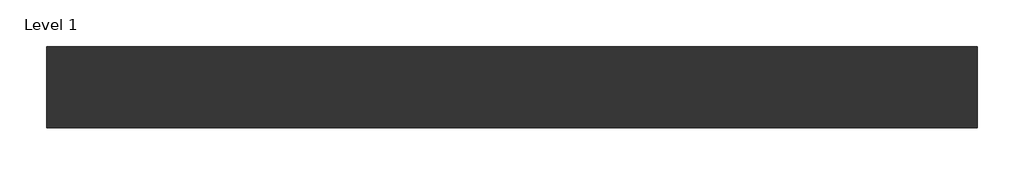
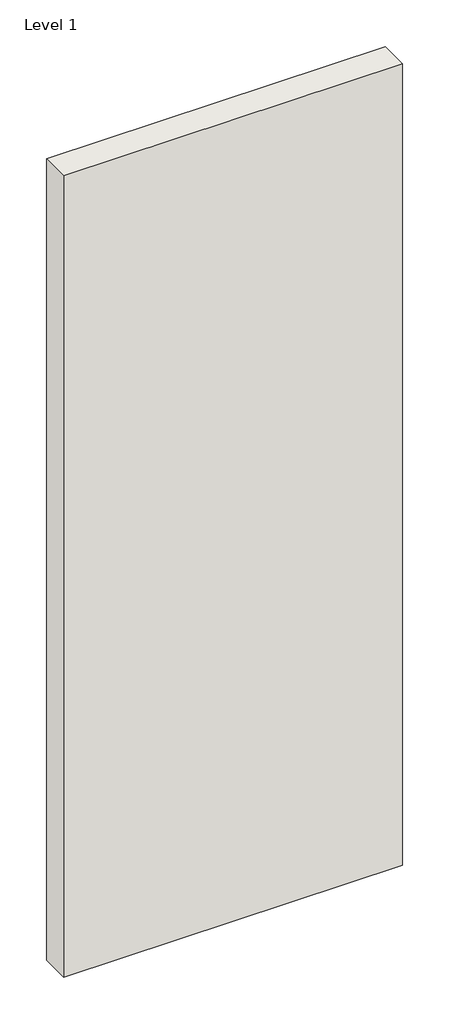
# One storey: 1 wall.
"""IFC4 building model written with IfcOpenShell, lengths in millimetres."""

import ifcopenshell
import ifcopenshell.guid

model = None  # the IFC model being written
_history = None  # IfcOwnerHistory: only IFC2X3 demands one
_inside = {}  # id of a spatial element -> (the spatial element, [elements in it])
_under = {}  # id of a project, library or spatial element -> (it, [spatial elements below it])
_declared = {}  # id of a project -> (the project, [libraries it declares])
_typed = {}  # id of a type object -> (the type object, [elements of that type])
_made_of = {}  # id of a material, layer set ... -> (it, [elements and type objects made of it])


def new_model(schema):
    """Start an empty IFC model of exactly this schema.

    Asked for "IFC4X3", IfcOpenShell would pick the latest addendum, in which some entities
    have other attributes; the version numbers below select the first issue.
    IFC2X3 requires an IfcOwnerHistory on every rooted entity: one is made here for all.
    """
    global model, _history
    if schema == "IFC4X3":
        model = ifcopenshell.file(schema_version=(4, 3, 0, 0))
    else:
        model = ifcopenshell.file(schema=schema)
    _inside.clear()
    _under.clear()
    _declared.clear()
    _typed.clear()
    _made_of.clear()
    _history = None
    if model.schema == "IFC2X3":
        org = make("IfcOrganization", Name="unknown")
        user = make(
            "IfcPersonAndOrganization",
            ThePerson=make("IfcPerson", FamilyName="unknown"),
            TheOrganization=org,
        )
        app = make(
            "IfcApplication",
            ApplicationDeveloper=org,
            Version="unknown",
            ApplicationFullName="unknown",
            ApplicationIdentifier="unknown",
        )
        _history = make(
            "IfcOwnerHistory",
            OwningUser=user,
            OwningApplication=app,
            ChangeAction="ADDED",
            CreationDate=0,
        )
    return model


def make(cls, **values):
    """One entity of the class cls with the attributes given. An attribute that is None is left unset."""
    return model.create_entity(
        cls, **{name: value for name, value in values.items() if value is not None}
    )


def rooted(cls, **values):
    """An entity with a GlobalId (a new one), such as an element, a storey or a relation."""
    return make(cls, GlobalId=ifcopenshell.guid.new(), OwnerHistory=_history, **values)


def si_unit(unit_type, name, prefix=None):
    """IfcSIUnit, for example si_unit("LENGTHUNIT", "METRE", prefix="MILLI")."""
    return make("IfcSIUnit", UnitType=unit_type, Prefix=prefix, Name=name)


def assignment(units):
    """IfcUnitAssignment: the units of a project."""
    return None if units is None else make("IfcUnitAssignment", Units=units)


def point(xyz):
    """IfcCartesianPoint."""
    return None if xyz is None else make("IfcCartesianPoint", Coordinates=xyz)


def direction(xyz):
    """IfcDirection."""
    return None if xyz is None else make("IfcDirection", DirectionRatios=xyz)


def frame(location, z_axis=None, x_axis=None):
    """IfcAxis2Placement3D, a coordinate frame: its origin and axes. An axis left out is left unset."""
    return make(
        "IfcAxis2Placement3D",
        Location=point(location),
        Axis=direction(z_axis),
        RefDirection=direction(x_axis),
    )


def origin():
    """The frame at (0, 0, 0) with its axes left unset."""
    return frame((0.0, 0.0, 0.0))


def origin_with_axes():
    """The frame at (0, 0, 0) with the z axis (0, 0, 1) and the x axis (1, 0, 0) written out."""
    return frame((0.0, 0.0, 0.0), z_axis=(0.0, 0.0, 1.0), x_axis=(1.0, 0.0, 0.0))


def place(relative_to, where):
    """IfcLocalPlacement: puts the frame where relative to a parent placement (None: the world)."""
    return make(
        "IfcLocalPlacement", PlacementRelTo=relative_to, RelativePlacement=where
    )


def context(
    kind, dimensions, precision=None, world=None, true_north=None, identifier=None
):
    """IfcGeometricRepresentationContext, for example the 3D "Model" context."""
    return make(
        "IfcGeometricRepresentationContext",
        ContextIdentifier=identifier,
        ContextType=kind,
        CoordinateSpaceDimension=dimensions,
        Precision=precision,
        WorldCoordinateSystem=world,
        TrueNorth=true_north,
    )


def project(units=None, contexts=None):
    """IfcProject with its units and contexts."""
    return rooted(
        "IfcProject",
        Name="project",
        RepresentationContexts=contexts,
        UnitsInContext=assignment(units),
    )


def spatial(cls, under=None, at=None, **own):
    """A site, building, storey or space (cls), placed at a placement, below another one or the project."""
    s = rooted(cls, ObjectPlacement=at, **own)
    if under is not None:
        _under.setdefault(under.id(), (under, []))[1].append(s)
    return s


def polyline(points):
    """IfcPolyline through the points."""
    return make("IfcPolyline", Points=[point(p) for p in points])


def outline(outer, holes=None, kind="AREA"):
    """IfcArbitraryClosedProfileDef: a profile drawn as a closed curve; with holes, ...WithVoids."""
    if holes is None:
        return make("IfcArbitraryClosedProfileDef", ProfileType=kind, OuterCurve=outer)
    return make(
        "IfcArbitraryProfileDefWithVoids",
        ProfileType=kind,
        OuterCurve=outer,
        InnerCurves=holes,
    )


def extrude(swept, where, along, depth):
    """IfcExtrudedAreaSolid: the profile swept, set in the frame where, extruded along a direction by depth."""
    return make(
        "IfcExtrudedAreaSolid",
        SweptArea=swept,
        Position=where,
        ExtrudedDirection=direction(along),
        Depth=depth,
    )


def shape(context_of_items, identifier, shape_type, items):
    """IfcShapeRepresentation: the items that make up one representation, for example the "Body"."""
    return make(
        "IfcShapeRepresentation",
        ContextOfItems=context_of_items,
        RepresentationIdentifier=identifier,
        RepresentationType=shape_type,
        Items=items,
    )


def made_of(thing, what):
    """Note that an element or type object is made of a material, layer set ...; save() writes the relation."""
    if what is not None:
        _made_of.setdefault(what.id(), (what, []))[1].append(thing)
    return thing


def element(
    cls,
    number,
    at=None,
    inside=None,
    cuts=None,
    type_object=None,
    material=None,
    context=None,
    identifier="Body",
    shape_type=None,
    held_by="IfcProductDefinitionShape",
    body=None,
    shapes=None,
    **own,
):
    """One element of the class cls, such as IfcWall. Its Tag is "e" and its number.

    at: its placement. inside: the storey or other place that contains it. cuts: it is an
    opening in that element (IfcRelVoidsElement). A single representation is given by context,
    identifier, shape_type and body (its items); several are given by shapes. held_by: the class
    of the entity that holds the representations. save() writes the other relations.
    """
    e = rooted(cls, Tag="e%d" % number, ObjectPlacement=at, **own)
    if body is not None:
        shapes = [shape(context, identifier, shape_type, body)]
    if shapes is not None:
        e.Representation = make(held_by, Representations=shapes)
    if inside is not None:
        _inside.setdefault(inside.id(), (inside, []))[1].append(e)
    if cuts is not None:
        rooted(
            "IfcRelVoidsElement", RelatingBuildingElement=cuts, RelatedOpeningElement=e
        )
    if type_object is not None:
        _typed.setdefault(type_object.id(), (type_object, []))[1].append(e)
    return made_of(e, material)


def aggregate(whole, parts):
    """IfcRelAggregates: a whole, such as a stair, and the parts it consists of."""
    return rooted("IfcRelAggregates", RelatingObject=whole, RelatedObjects=parts)


def save(model, path):
    """Write the relations noted so far, then the file.

    IfcRelAggregates (storeys below a building ...), IfcRelContainedInSpatialStructure (elements
    in a storey), IfcRelDefinesByType, IfcRelAssociatesMaterial and IfcRelDeclares: one each for
    every whole, place, type object, material and project.
    """
    for whole, parts in _under.values():
        aggregate(whole, parts)
    for where, things in _inside.values():
        rooted(
            "IfcRelContainedInSpatialStructure",
            RelatedElements=things,
            RelatingStructure=where,
        )
    for kind, things in _typed.values():
        rooted("IfcRelDefinesByType", RelatedObjects=things, RelatingType=kind)
    for what, things in _made_of.values():
        rooted("IfcRelAssociatesMaterial", RelatedObjects=things, RelatingMaterial=what)
    for by, libraries in _declared.values():
        rooted("IfcRelDeclares", RelatingContext=by, RelatedDefinitions=libraries)
    model.write(path)


model = new_model("IFC4")

# Units and contexts
model_context = context("Model", 3, world=origin())
ifc_project = project(units=[si_unit("LENGTHUNIT", "METRE", prefix="MILLI")], contexts=[model_context])

# Site, building, storey
site = spatial("IfcSite", under=ifc_project)
building = spatial("IfcBuilding", under=site)
storey = spatial("IfcBuildingStorey", under=building, Name="Level 1", Elevation=0.0)

# Wall
placement = place(None, origin())
element("IfcWall", 1, ObjectType="RIGIPS - 3.22.00 - EI 15, REI 15 - 3500 - 12dB", at=placement, inside=storey, context=model_context, shape_type="SweptSolid", body=[
    extrude(outline(polyline([(1000.0, -43.75), (0.0, -43.75), (0.0, 43.75), (1000.0, 43.75), (1000.0, -43.75)])), origin_with_axes(), (0.0, 0.0, 1.0), 2500.0),
])

save(model, "model.ifc")
